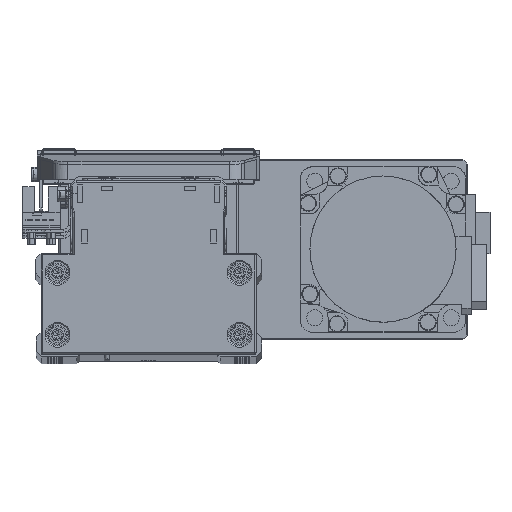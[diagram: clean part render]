
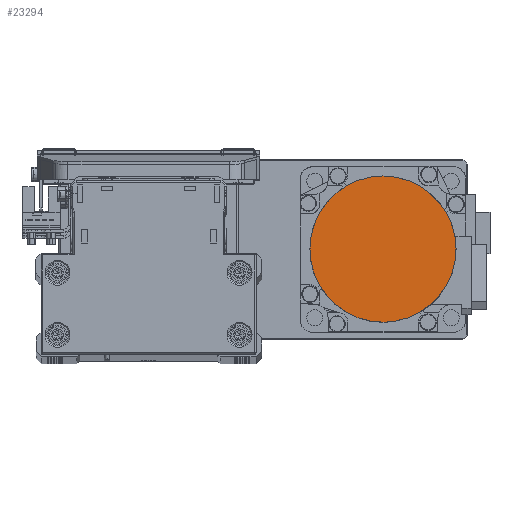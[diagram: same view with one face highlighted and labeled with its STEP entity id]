
A CAD part, top view. The second image highlights one B-rep face of the part: STEP entity #23294.
In plain terms, the highlighted planar face has unit normal (0, 0, 1) as drawn and (0, 0, -1) by its records, which use the part's own axes.
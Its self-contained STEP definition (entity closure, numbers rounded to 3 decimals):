
#782 = CARTESIAN_POINT ( 'NONE',  ( 19.965, 17.512, -88. ) ) ;
#996 = CARTESIAN_POINT ( 'NONE',  ( -11.744, 23.819, -88. ) ) ;
#2932 = CARTESIAN_POINT ( 'NONE',  ( -23.819, -11.744, -88. ) ) ;
#3163 = CARTESIAN_POINT ( 'NONE',  ( 3.469, -26.329, -88. ) ) ;
#3359 = CARTESIAN_POINT ( 'NONE',  ( 26.329, -3.469, -88. ) ) ;
#3468 = B_SPLINE_CURVE_WITH_KNOTS ( 'NONE', 3,
 ( #23628, #36747, #7266, #20403, #33527, #4029, #17151, #30299, #782, #13917, #27058, #40183, #10699, #23855, #36961, #7466, #20603, #33737, #4241, #17361, #30503, #996, #14138, #27279, #40395, #10899, #24061, #37164, #7678, #20823, #33948, #4450, #17581, #30725 ),
 .UNSPECIFIED., .F., .F.,
 ( 4, 2, 2, 2, 2, 2, 2, 2, 2, 2, 2, 2, 2, 2, 2, 2, 4 ),
 ( 0., 0.063, 0.125, 0.188, 0.25, 0.313, 0.375, 0.438, 0.5, 0.563, 0.625, 0.688, 0.75, 0.813, 0.875, 0.938, 1. ),
 .UNSPECIFIED. ) ;
#4029 = CARTESIAN_POINT ( 'NONE',  ( 23.819, 11.744, -88. ) ) ;
#4241 = CARTESIAN_POINT ( 'NONE',  ( -3.469, 26.329, -88. ) ) ;
#4450 = CARTESIAN_POINT ( 'NONE',  ( -26.329, 3.469, -88. ) ) ;
#5555 = AXIS2_PLACEMENT_3D ( 'NONE', #35583, #6084, #19214 ) ;
#6084 = DIRECTION ( 'NONE',  ( 0., 0., 1. ) ) ;
#6178 = CARTESIAN_POINT ( 'NONE',  ( -26.329, -3.469, -88. ) ) ;
#6388 = CARTESIAN_POINT ( 'NONE',  ( -3.469, -26.329, -88. ) ) ;
#6624 = CARTESIAN_POINT ( 'NONE',  ( 23.819, -11.744, -88. ) ) ;
#7266 = CARTESIAN_POINT ( 'NONE',  ( 26.329, 3.469, -88. ) ) ;
#7466 = CARTESIAN_POINT ( 'NONE',  ( 3.469, 26.329, -88. ) ) ;
#7678 = CARTESIAN_POINT ( 'NONE',  ( -23.819, 11.744, -88. ) ) ;
#9324 = FACE_OUTER_BOUND ( 'NONE', #36213, .T. ) ;
#9615 = CARTESIAN_POINT ( 'NONE',  ( -11.744, -23.819, -88. ) ) ;
#9824 = CARTESIAN_POINT ( 'NONE',  ( 19.965, -17.512, -88. ) ) ;
#10699 = CARTESIAN_POINT ( 'NONE',  ( 11.744, 23.819, -88. ) ) ;
#10899 = CARTESIAN_POINT ( 'NONE',  ( -19.965, 17.512, -88. ) ) ;
#11950 = VERTEX_POINT ( 'NONE', #12218 ) ;
#12218 = CARTESIAN_POINT ( 'NONE',  ( -26.5, 0., -88. ) ) ;
#12843 = CARTESIAN_POINT ( 'NONE',  ( -17.512, -19.965, -88. ) ) ;
#13047 = CARTESIAN_POINT ( 'NONE',  ( 13.28, -22.998, -88. ) ) ;
#13831 = CARTESIAN_POINT ( 'NONE',  ( 26.5, 0., -88. ) ) ;
#13917 = CARTESIAN_POINT ( 'NONE',  ( 17.512, 19.965, -88. ) ) ;
#14138 = CARTESIAN_POINT ( 'NONE',  ( -13.28, 22.998, -88. ) ) ;
#16071 = CARTESIAN_POINT ( 'NONE',  ( -22.998, -13.28, -88. ) ) ;
#16190 = ORIENTED_EDGE ( 'NONE', *, *, #23138, .F. ) ;
#16296 = CARTESIAN_POINT ( 'NONE',  ( 6.871, -25.652, -88. ) ) ;
#16500 = CARTESIAN_POINT ( 'NONE',  ( 26.5, -1.734, -88. ) ) ;
#17151 = CARTESIAN_POINT ( 'NONE',  ( 22.998, 13.28, -88. ) ) ;
#17361 = CARTESIAN_POINT ( 'NONE',  ( -6.871, 25.652, -88. ) ) ;
#17581 = CARTESIAN_POINT ( 'NONE',  ( -26.5, 1.734, -88. ) ) ;
#18312 = ORIENTED_EDGE ( 'NONE', *, *, #20689, .F. ) ;
#19214 = DIRECTION ( 'NONE',  ( 1., 0., 0. ) ) ;
#19306 = CARTESIAN_POINT ( 'NONE',  ( -25.652, -6.871, -88. ) ) ;
#19519 = CARTESIAN_POINT ( 'NONE',  ( -1.734, -26.5, -88. ) ) ;
#19748 = CARTESIAN_POINT ( 'NONE',  ( 25.147, -8.539, -88. ) ) ;
#20403 = CARTESIAN_POINT ( 'NONE',  ( 25.652, 6.871, -88. ) ) ;
#20603 = CARTESIAN_POINT ( 'NONE',  ( 1.734, 26.5, -88. ) ) ;
#20689 = EDGE_CURVE ( 'NONE', #11950, #31462, #30831, .T. ) ;
#20823 = CARTESIAN_POINT ( 'NONE',  ( -25.147, 8.539, -88. ) ) ;
#22472 = PLANE ( 'NONE',  #5555 ) ;
#22556 = CARTESIAN_POINT ( 'NONE',  ( -26.5, 0., -88. ) ) ;
#22767 = CARTESIAN_POINT ( 'NONE',  ( -8.539, -25.147, -88. ) ) ;
#22982 = CARTESIAN_POINT ( 'NONE',  ( 21.07, -16.165, -88. ) ) ;
#23138 = EDGE_CURVE ( 'NONE', #31462, #11950, #3468, .T. ) ;
#23294 = ADVANCED_FACE ( 'NONE', ( #9324 ), #22472, .F. ) ;
#23628 = CARTESIAN_POINT ( 'NONE',  ( 26.5, 0., -88. ) ) ;
#23855 = CARTESIAN_POINT ( 'NONE',  ( 8.539, 25.147, -88. ) ) ;
#24061 = CARTESIAN_POINT ( 'NONE',  ( -21.07, 16.165, -88. ) ) ;
#25991 = CARTESIAN_POINT ( 'NONE',  ( -16.165, -21.07, -88. ) ) ;
#26198 = CARTESIAN_POINT ( 'NONE',  ( 16.165, -21.07, -88. ) ) ;
#27058 = CARTESIAN_POINT ( 'NONE',  ( 16.165, 21.07, -88. ) ) ;
#27279 = CARTESIAN_POINT ( 'NONE',  ( -16.165, 21.07, -88. ) ) ;
#29219 = CARTESIAN_POINT ( 'NONE',  ( -21.07, -16.165, -88. ) ) ;
#29426 = CARTESIAN_POINT ( 'NONE',  ( 8.539, -25.147, -88. ) ) ;
#29638 = CARTESIAN_POINT ( 'NONE',  ( 26.5, 0., -88. ) ) ;
#30299 = CARTESIAN_POINT ( 'NONE',  ( 21.07, 16.165, -88. ) ) ;
#30503 = CARTESIAN_POINT ( 'NONE',  ( -8.539, 25.147, -88. ) ) ;
#30725 = CARTESIAN_POINT ( 'NONE',  ( -26.5, 0., -88. ) ) ;
#30831 = B_SPLINE_CURVE_WITH_KNOTS ( 'NONE', 3,
 ( #22556, #35665, #6178, #19306, #32441, #2932, #16071, #29219, #42349, #12843, #25991, #39102, #9615, #22767, #35886, #6388, #19519, #32662, #3163, #16296, #29426, #42543, #13047, #26198, #39316, #9824, #22982, #36108, #6624, #19748, #32870, #3359, #16500, #29638 ),
 .UNSPECIFIED., .F., .F.,
 ( 4, 2, 2, 2, 2, 2, 2, 2, 2, 2, 2, 2, 2, 2, 2, 2, 4 ),
 ( 0., 0.063, 0.125, 0.188, 0.25, 0.313, 0.375, 0.438, 0.5, 0.563, 0.625, 0.688, 0.75, 0.813, 0.875, 0.938, 1. ),
 .UNSPECIFIED. ) ;
#31462 = VERTEX_POINT ( 'NONE', #13831 ) ;
#32441 = CARTESIAN_POINT ( 'NONE',  ( -25.147, -8.539, -88. ) ) ;
#32662 = CARTESIAN_POINT ( 'NONE',  ( 1.734, -26.5, -88. ) ) ;
#32870 = CARTESIAN_POINT ( 'NONE',  ( 25.652, -6.871, -88. ) ) ;
#33527 = CARTESIAN_POINT ( 'NONE',  ( 25.147, 8.539, -88. ) ) ;
#33737 = CARTESIAN_POINT ( 'NONE',  ( -1.734, 26.5, -88. ) ) ;
#33948 = CARTESIAN_POINT ( 'NONE',  ( -25.652, 6.871, -88. ) ) ;
#35583 = CARTESIAN_POINT ( 'NONE',  ( 0., 0., -88. ) ) ;
#35665 = CARTESIAN_POINT ( 'NONE',  ( -26.5, -1.734, -88. ) ) ;
#35886 = CARTESIAN_POINT ( 'NONE',  ( -6.871, -25.652, -88. ) ) ;
#36108 = CARTESIAN_POINT ( 'NONE',  ( 22.998, -13.28, -88. ) ) ;
#36213 = EDGE_LOOP ( 'NONE', ( #16190, #18312 ) ) ;
#36747 = CARTESIAN_POINT ( 'NONE',  ( 26.5, 1.734, -88. ) ) ;
#36961 = CARTESIAN_POINT ( 'NONE',  ( 6.871, 25.652, -88. ) ) ;
#37164 = CARTESIAN_POINT ( 'NONE',  ( -22.998, 13.28, -88. ) ) ;
#39102 = CARTESIAN_POINT ( 'NONE',  ( -13.28, -22.998, -88. ) ) ;
#39316 = CARTESIAN_POINT ( 'NONE',  ( 17.512, -19.965, -88. ) ) ;
#40183 = CARTESIAN_POINT ( 'NONE',  ( 13.28, 22.998, -88. ) ) ;
#40395 = CARTESIAN_POINT ( 'NONE',  ( -17.512, 19.965, -88. ) ) ;
#42349 = CARTESIAN_POINT ( 'NONE',  ( -19.965, -17.512, -88. ) ) ;
#42543 = CARTESIAN_POINT ( 'NONE',  ( 11.744, -23.819, -88. ) ) ;
